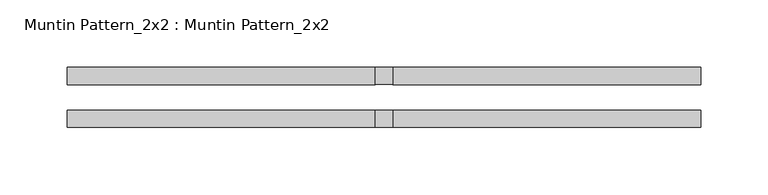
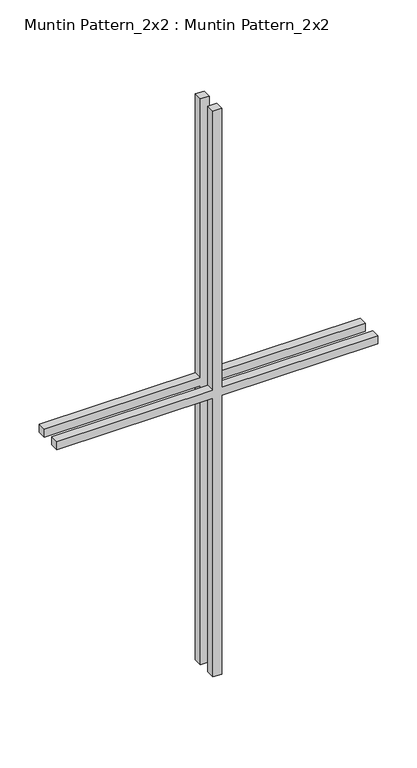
"""IFC4 building model written with IfcOpenShell, lengths in millimetres: proxy geometry, Muntin Pattern_2x2 : Muntin Pattern_2x2."""

from ifc_helpers import new_model, si_unit, frame, origin, place, context, project, spatial, polyline, outline, extrude, source, transform, mapped, element, save


def muntin_pattern_2x2_muntin_pattern_2x2_c450b4c2(model_context):
    return source(origin(), model_context, "Body", "SweptSolid", [
        extrude(outline(polyline([(444.5, -6.35), (444.5, -234.95), (431.8, -234.95), (431.8, -6.35), (0.0, -6.35), (0.0, 6.35), (431.8, 6.35), (431.8, 234.95), (444.5, 234.95), (444.5, 6.35), (876.3, 6.35), (876.3, -6.35), (444.5, -6.35)])), frame((0.0, 9.525, 0.0), z_axis=(0.0, 1.0, 0.0), x_axis=(0.0, 0.0, 1.0)), (0.0, 0.0, 1.0), 12.7),
        extrude(outline(polyline([(444.5, -6.35), (444.5, -234.95), (431.8, -234.95), (431.8, -6.35), (0.0, -6.35), (0.0, 6.35), (431.8, 6.35), (431.8, 234.95), (444.5, 234.95), (444.5, 6.35), (876.3, 6.35), (876.3, -6.35), (444.5, -6.35)])), frame((0.0, -22.225, 0.0), z_axis=(0.0, 1.0, 0.0), x_axis=(0.0, 0.0, 1.0)), (0.0, 0.0, 1.0), 12.7),
    ])


if __name__ == "__main__":
    model = new_model("IFC4")
    model_context = context("Model", 3, world=origin())
    ifc_project = project(units=[si_unit("LENGTHUNIT", "METRE", prefix="MILLI")], contexts=[model_context])
    site = spatial("IfcSite", under=ifc_project)
    building = spatial("IfcBuilding", under=site)
    placement = place(None, origin())
    muntin_pattern_2x2_muntin_pattern_2x2_shape = muntin_pattern_2x2_muntin_pattern_2x2_c450b4c2(model_context)
    element("IfcBuildingElementProxy", 1, Name="Muntin Pattern_2x2 : Muntin Pattern_2x2", ObjectType="Muntin Pattern_2x2 : Muntin Pattern_2x2", at=placement, inside=building, context=model_context, shape_type="MappedRepresentation", body=[
        mapped(muntin_pattern_2x2_muntin_pattern_2x2_shape, transform((0.0, 0.0, 0.0), x_axis=(1.0, 0.0, 0.0), y_axis=(0.0, 1.0, 0.0), z_axis=(0.0, 0.0, 1.0))),
    ])
    save(model, "model.ifc")
